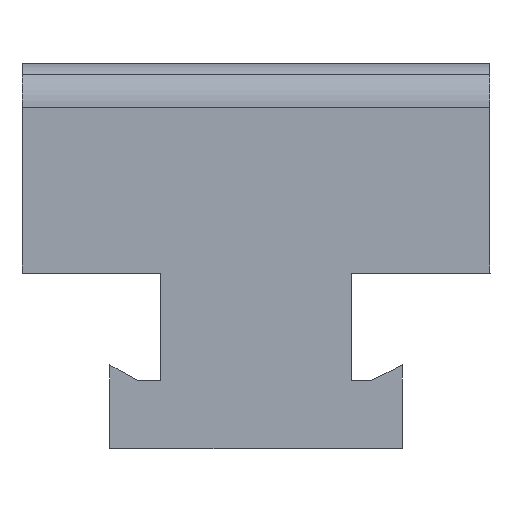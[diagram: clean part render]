
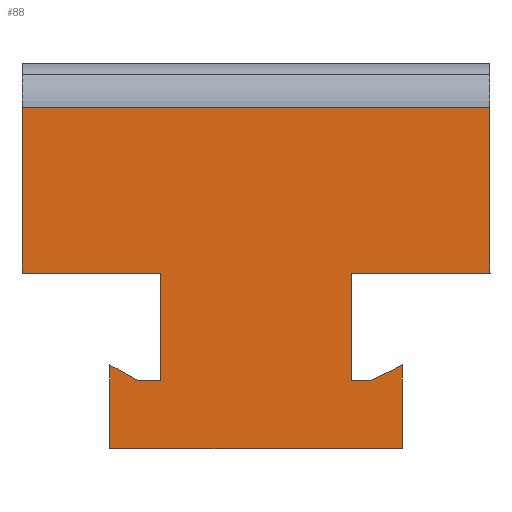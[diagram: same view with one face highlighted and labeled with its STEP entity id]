
A CAD part, left-side view. The second image highlights one B-rep face of the part: STEP entity #88.
In plain terms, the highlighted planar face has unit normal (-1, 0, 0).
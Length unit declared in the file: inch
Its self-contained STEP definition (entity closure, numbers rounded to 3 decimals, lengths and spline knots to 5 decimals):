
#88=ADVANCED_FACE('',(#232),#233,.T.);
#232=FACE_OUTER_BOUND('',#429,.T.);
#233=PLANE('',#430);
#429=EDGE_LOOP('',(#787,#788,#789,#790,#791,#792,#793,#794,#795,#796,#797,#798,#799,#800));
#430=AXIS2_PLACEMENT_3D('',#801,#802,#803);
#787=ORIENTED_EDGE('',*,*,#1329,.T.);
#788=ORIENTED_EDGE('',*,*,#1330,.T.);
#789=ORIENTED_EDGE('',*,*,#1331,.T.);
#790=ORIENTED_EDGE('',*,*,#1332,.T.);
#791=ORIENTED_EDGE('',*,*,#1333,.T.);
#792=ORIENTED_EDGE('',*,*,#1334,.T.);
#793=ORIENTED_EDGE('',*,*,#1335,.F.);
#794=ORIENTED_EDGE('',*,*,#1336,.T.);
#795=ORIENTED_EDGE('',*,*,#1337,.T.);
#796=ORIENTED_EDGE('',*,*,#1338,.T.);
#797=ORIENTED_EDGE('',*,*,#1339,.T.);
#798=ORIENTED_EDGE('',*,*,#1340,.T.);
#799=ORIENTED_EDGE('',*,*,#1341,.T.);
#800=ORIENTED_EDGE('',*,*,#1342,.T.);
#801=CARTESIAN_POINT('',(0.,2.,-0.02097));
#802=DIRECTION('',(-1.0,0.0,0.0));
#803=DIRECTION('',(0.0,0.0,-1.0));
#1329=EDGE_CURVE('',#1566,#1567,#1568,.T.);
#1330=EDGE_CURVE('',#1567,#1569,#1570,.T.);
#1331=EDGE_CURVE('',#1569,#1571,#1572,.T.);
#1332=EDGE_CURVE('',#1571,#1573,#1574,.T.);
#1333=EDGE_CURVE('',#1573,#1575,#1576,.T.);
#1334=EDGE_CURVE('',#1575,#1577,#1578,.T.);
#1335=EDGE_CURVE('',#1579,#1577,#1580,.T.);
#1336=EDGE_CURVE('',#1579,#1581,#1582,.T.);
#1337=EDGE_CURVE('',#1581,#1583,#1584,.T.);
#1338=EDGE_CURVE('',#1583,#1585,#1586,.T.);
#1339=EDGE_CURVE('',#1585,#1587,#1588,.T.);
#1340=EDGE_CURVE('',#1587,#1589,#1590,.T.);
#1341=EDGE_CURVE('',#1589,#1591,#1592,.T.);
#1342=EDGE_CURVE('',#1591,#1566,#1593,.T.);
#1566=VERTEX_POINT('',#1915);
#1567=VERTEX_POINT('',#1916);
#1568=LINE('',#1917,#1918);
#1569=VERTEX_POINT('',#1919);
#1570=LINE('',#1920,#1921);
#1571=VERTEX_POINT('',#1922);
#1572=LINE('',#1923,#1924);
#1573=VERTEX_POINT('',#1925);
#1574=LINE('',#1926,#1927);
#1575=VERTEX_POINT('',#1928);
#1576=LINE('',#1929,#1930);
#1577=VERTEX_POINT('',#1931);
#1578=LINE('',#1932,#1933);
#1579=VERTEX_POINT('',#1934);
#1580=LINE('',#1935,#1936);
#1581=VERTEX_POINT('',#1937);
#1582=LINE('',#1938,#1939);
#1583=VERTEX_POINT('',#1940);
#1584=LINE('',#1941,#1942);
#1585=VERTEX_POINT('',#1943);
#1586=LINE('',#1944,#1945);
#1587=VERTEX_POINT('',#1946);
#1588=LINE('',#1947,#1948);
#1589=VERTEX_POINT('',#1949);
#1590=LINE('',#1950,#1951);
#1591=VERTEX_POINT('',#1952);
#1592=LINE('',#1953,#1954);
#1593=LINE('',#1955,#1956);
#1915=CARTESIAN_POINT('',(0.,0.37469,-0.74991));
#1916=CARTESIAN_POINT('',(0.0,0.37469,-0.3926));
#1917=CARTESIAN_POINT('',(0.0,0.37469,-0.31866));
#1918=VECTOR('',#2492,1.0);
#1919=CARTESIAN_POINT('',(0.0,0.50572,-0.45841));
#1920=CARTESIAN_POINT('',(0.,0.98189,-0.69755));
#1921=VECTOR('',#2493,1.0);
#1922=CARTESIAN_POINT('',(0.0,0.59368,-0.45841));
#1923=CARTESIAN_POINT('',(0.,1.27485,-0.45841));
#1924=VECTOR('',#2494,1.0);
#1925=CARTESIAN_POINT('',(0.0,0.59368,0.0));
#1926=CARTESIAN_POINT('',(0.0,0.59368,-0.12509));
#1927=VECTOR('',#2495,1.0);
#1928=CARTESIAN_POINT('',(0.0,0.0,0.0));
#1929=CARTESIAN_POINT('',(0.0,1.14842,0.));
#1930=VECTOR('',#2496,1.0);
#1931=CARTESIAN_POINT('',(0.,0.,0.70796));
#1932=CARTESIAN_POINT('',(0.,0.,0.70796));
#1933=VECTOR('',#2497,1.0);
#1934=CARTESIAN_POINT('',(0.,2.,0.70796));
#1935=CARTESIAN_POINT('',(0.,2.,0.70796));
#1936=VECTOR('',#2498,1.0);
#1937=CARTESIAN_POINT('',(0.0,2.0,0.0));
#1938=CARTESIAN_POINT('',(0.,2.,0.70796));
#1939=VECTOR('',#2499,1.0);
#1940=CARTESIAN_POINT('',(0.0,1.40618,0.0));
#1941=CARTESIAN_POINT('',(0.0,1.85155,0.));
#1942=VECTOR('',#2500,1.0);
#1943=CARTESIAN_POINT('',(0.0,1.40618,-0.45841));
#1944=CARTESIAN_POINT('',(0.0,1.40618,-0.12509));
#1945=VECTOR('',#2501,1.0);
#1946=CARTESIAN_POINT('',(0.0,1.50572,-0.45841));
#1947=CARTESIAN_POINT('',(0.,1.72798,-0.45841));
#1948=VECTOR('',#2502,1.0);
#1949=CARTESIAN_POINT('',(0.0,1.62469,-0.3926));
#1950=CARTESIAN_POINT('',(0.0,1.81734,-0.28603));
#1951=VECTOR('',#2503,1.0);
#1952=CARTESIAN_POINT('',(0.,1.62469,-0.74991));
#1953=CARTESIAN_POINT('',(0.0,1.62469,-0.31866));
#1954=VECTOR('',#2504,1.0);
#1955=CARTESIAN_POINT('',(0.,2.,-0.74991));
#1956=VECTOR('',#2505,1.0);
#2492=DIRECTION('',(0.0,0.0,1.0));
#2493=DIRECTION('',(-0.0,0.894,-0.449));
#2494=DIRECTION('',(-0.0,1.0,-0.0));
#2495=DIRECTION('',(0.0,0.0,1.0));
#2496=DIRECTION('',(0.0,-1.0,0.0));
#2497=DIRECTION('',(0.0,0.0,1.0));
#2498=DIRECTION('',(0.0,-1.0,0.0));
#2499=DIRECTION('',(0.0,0.0,-1.0));
#2500=DIRECTION('',(0.0,-1.0,0.0));
#2501=DIRECTION('',(0.0,0.0,-1.0));
#2502=DIRECTION('',(-0.0,1.0,-0.0));
#2503=DIRECTION('',(0.0,0.875,0.484));
#2504=DIRECTION('',(0.0,0.0,-1.0));
#2505=DIRECTION('',(0.0,-1.0,0.0));
